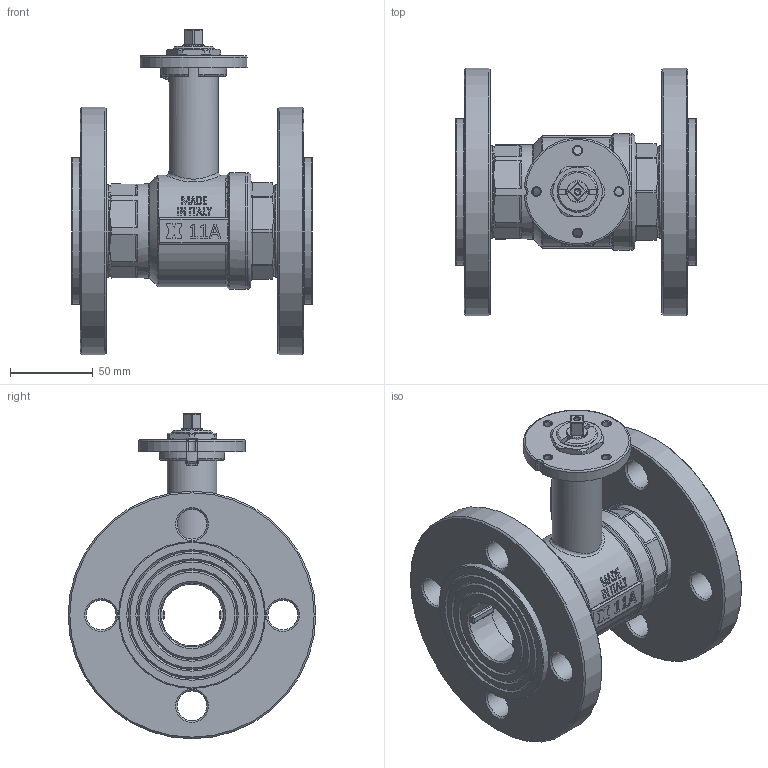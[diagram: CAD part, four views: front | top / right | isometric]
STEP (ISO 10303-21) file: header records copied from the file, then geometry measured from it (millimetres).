
FILE_DESCRIPTION(/* description */ ('Sfera 1"1/2'),/* implementation_level */ '2;1');
FILE_NAME(/* name */ '\\dcidrosfer01\user$\ut4\Desktop\TICOM 95 PME STP\Art.95 PME DN40.stp',/* time_stamp */ '2015-07-21T15:03:35+02:00',/* author */ ('ut4'),/* organization */ (''),/* preprocessor_version */ 'ST-DEVELOPER v15.6',/* originating_system */ 'Autodesk Inventor 2015',/* authorisation */ '');
FILE_SCHEMA (('AUTOMOTIVE_DESIGN { 1 0 10303 214 3 1 1 }'));
Length unit declared in the file: millimetre
Products named in the file (17): sfera 112; O-ring 45.69 x 2.62; Dischetto portamotore SM Ø25 lav.; Dado blocca piastra SM3; Anello antigrip. perno mot. Ø20; Boccola antigrip. perno mot. Ø20; O-ring 15.08 x 2.62; Sede 112; Manic. femmina-deviatore 112 mot.; Corpo prolunga mot. 112; Perno mot. prolunga corto 20 q8; Tubetto prolunga mot.114-112; Ghiera ferma asta mot. 25 prolunga; Flangia PN16 DN40; O-ring 44.12 x 2.62; Bocchettone DN40; Valvola a sfera mot. 112 art.95 PM SM
Assembly tree (23 placements, depth 2):
  Valvola a sfera mot. 112 art.95 PM SM
    sfera 112
    O-ring 45.69 x 2.62  x2
    Dischetto portamotore SM Ø25 lav.
    Dado blocca piastra SM3
    Anello antigrip. perno mot. Ø20
    Boccola antigrip. perno mot. Ø20  x2
    O-ring 15.08 x 2.62  x2
    Sede 112  x2
    Manic. femmina-deviatore 112 mot.
    Corpo prolunga mot. 112
    Perno mot. prolunga corto 20 q8
    Tubetto prolunga mot.114-112
    Ghiera ferma asta mot. 25 prolunga
    Flangia PN16 DN40  x2
    O-ring 44.12 x 2.62  x2
    Bocchettone DN40  x2
Bounding box: 145.6 x 150 x 197.25 mm (x, y, z)
Volume: 675501.9 mm3; surface area: 253722.4 mm2
Topology: 22 solids, 23 shells, 932 faces, 2304 edges, 1449 vertices
Faces by surface type: plane 384, cylinder 212, bspline 122, cone 106, torus 87, sphere 21
Full cylindrical faces by diameter (mm): 3.242 x1, 4.917 x4, 13 x1, 13.2 x3, 14.8 x2, 15 x2, 16 x1, 16.1 x2, 16.3 x2, 18 x8, 19.9 x3, 20 x4, 20.1 x1, 23 x1, 23.3 x1, 23.5 x2, 25 x2, 28 x1, 30 x1, 39 x3, 40 x4, 43 x2, 44.85 x1, 45 x1, 45.6 x2, 47.8 x2, 51 x4, 52.5 x2, 56 x2, 57 x1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
Entity records: 28336 total; most frequent: CARTESIAN_POINT 8491, ORIENTED_EDGE 3866, DIRECTION 3747, EDGE_CURVE 1933, AXIS2_PLACEMENT_3D 1433, VERTEX_POINT 1304, EDGE_LOOP 1083, LINE 881
